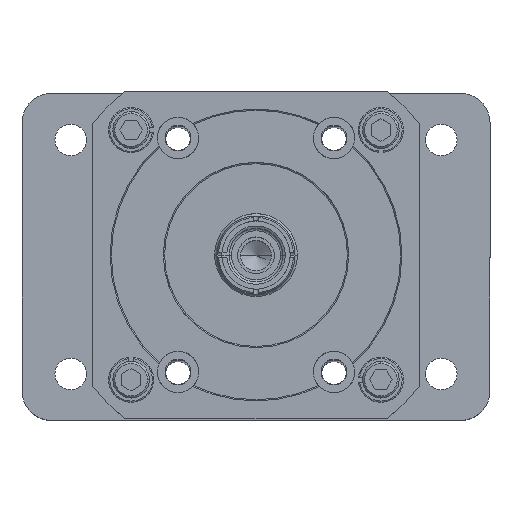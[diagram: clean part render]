
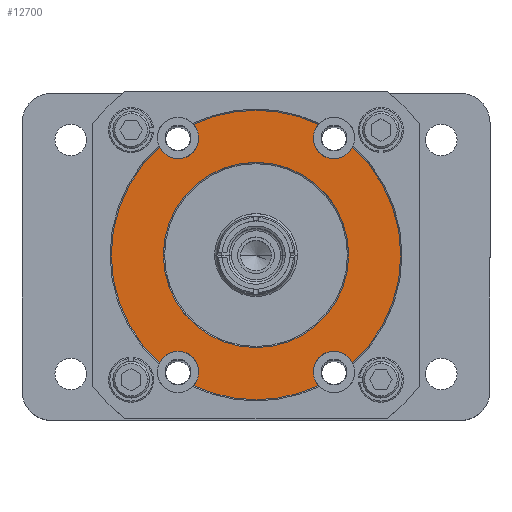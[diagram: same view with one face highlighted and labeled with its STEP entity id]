
A CAD part, top view. The second image highlights one B-rep face of the part: STEP entity #12700.
In plain terms, the highlighted planar face has unit normal (0, 0, 1).
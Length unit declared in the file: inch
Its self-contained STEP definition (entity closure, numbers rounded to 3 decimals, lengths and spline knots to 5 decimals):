
#1399 = VERTEX_POINT ( 'NONE', #5790 ) ;
#1645 = EDGE_CURVE ( 'NONE', #1399, #2335, #6444, .T. ) ;
#2335 = VERTEX_POINT ( 'NONE', #6564 ) ;
#3333 = EDGE_CURVE ( 'NONE', #3338, #3342, #6869, .T. ) ;
#3338 = VERTEX_POINT ( 'NONE', #6905 ) ;
#3342 = VERTEX_POINT ( 'NONE', #6903 ) ;
#5490 = EDGE_CURVE ( 'NONE', #5748, #6431, #7483, .T. ) ;
#5748 = VERTEX_POINT ( 'NONE', #7430 ) ;
#5790 = CARTESIAN_POINT ( 'NONE',  ( 1.85538, 0., -0.18 ) ) ;
#6396 = AXIS2_PLACEMENT_3D ( 'NONE', #6434, #6433, #6432 ) ;
#6431 = VERTEX_POINT ( 'NONE', #7495 ) ;
#6432 = DIRECTION ( 'NONE',  ( 1., 0., 0. ) ) ;
#6433 = DIRECTION ( 'NONE',  ( 0., 0., 1. ) ) ;
#6434 = CARTESIAN_POINT ( 'NONE',  ( 0., 0., -0.18 ) ) ;
#6444 = CIRCLE ( 'NONE', #6396, 1.85538 ) ;
#6564 = CARTESIAN_POINT ( 'NONE',  ( 1.23798, 1.38196, -0.18 ) ) ;
#6868 = CARTESIAN_POINT ( 'NONE',  ( 1., -1.5, -0.18 ) ) ;
#6869 = CIRCLE ( 'NONE', #6919, 0.26565 ) ;
#6903 = CARTESIAN_POINT ( 'NONE',  ( 0.79951, -1.67428, -0.18 ) ) ;
#6905 = CARTESIAN_POINT ( 'NONE',  ( 0.73435, -1.5, -0.18 ) ) ;
#6917 = DIRECTION ( 'NONE',  ( 1., 0., 0. ) ) ;
#6918 = DIRECTION ( 'NONE',  ( 0., 0., 1. ) ) ;
#6919 = AXIS2_PLACEMENT_3D ( 'NONE', #6868, #6918, #6917 ) ;
#7430 = CARTESIAN_POINT ( 'NONE',  ( -0.79951, -1.67428, -0.18 ) ) ;
#7465 = DIRECTION ( 'NONE',  ( 1., 0., 0. ) ) ;
#7466 = DIRECTION ( 'NONE',  ( 0., 0., 1. ) ) ;
#7467 = CARTESIAN_POINT ( 'NONE',  ( -1., -1.5, -0.18 ) ) ;
#7472 = AXIS2_PLACEMENT_3D ( 'NONE', #7467, #7466, #7465 ) ;
#7483 = CIRCLE ( 'NONE', #7472, 0.26565 ) ;
#7495 = CARTESIAN_POINT ( 'NONE',  ( -0.73435, -1.5, -0.18 ) ) ;
#12210 = EDGE_CURVE ( 'NONE', #12290, #2335, #18081, .T. ) ;
#12229 = VERTEX_POINT ( 'NONE', #18182 ) ;
#12238 = EDGE_CURVE ( 'NONE', #12249, #12229, #18183, .T. ) ;
#12249 = VERTEX_POINT ( 'NONE', #18226 ) ;
#12290 = VERTEX_POINT ( 'NONE', #18327 ) ;
#12317 = VERTEX_POINT ( 'NONE', #18445 ) ;
#12345 = EDGE_CURVE ( 'NONE', #12317, #12362, #18538, .T. ) ;
#12362 = VERTEX_POINT ( 'NONE', #18587 ) ;
#12364 = EDGE_CURVE ( 'NONE', #12362, #12317, #18611, .T. ) ;
#12624 = ORIENTED_EDGE ( 'NONE', *, *, #12628, .T. ) ;
#12625 = VERTEX_POINT ( 'NONE', #19042 ) ;
#12626 = ORIENTED_EDGE ( 'NONE', *, *, #1645, .T. ) ;
#12627 = ORIENTED_EDGE ( 'NONE', *, *, #12644, .F. ) ;
#12628 = EDGE_CURVE ( 'NONE', #12702, #1399, #19031, .T. ) ;
#12629 = VERTEX_POINT ( 'NONE', #19058 ) ;
#12630 = ORIENTED_EDGE ( 'NONE', *, *, #12238, .F. ) ;
#12631 = EDGE_CURVE ( 'NONE', #12249, #12698, #19104, .T. ) ;
#12634 = EDGE_LOOP ( 'NONE', ( #12654, #12640, #12703, #12627, #12624, #12626, #12691, #12639, #12701, #12696, #12630, #12678, #12697 ) ) ;
#12639 = ORIENTED_EDGE ( 'NONE', *, *, #12642, .F. ) ;
#12640 = ORIENTED_EDGE ( 'NONE', *, *, #12699, .T. ) ;
#12642 = EDGE_CURVE ( 'NONE', #12629, #12290, #19078, .T. ) ;
#12644 = EDGE_CURVE ( 'NONE', #12702, #3338, #18809, .T. ) ;
#12654 = ORIENTED_EDGE ( 'NONE', *, *, #5490, .F. ) ;
#12678 = ORIENTED_EDGE ( 'NONE', *, *, #12631, .T. ) ;
#12679 = EDGE_CURVE ( 'NONE', #6431, #12698, #19151, .T. ) ;
#12681 = EDGE_LOOP ( 'NONE', ( #12682, #12683 ) ) ;
#12682 = ORIENTED_EDGE ( 'NONE', *, *, #12345, .F. ) ;
#12683 = ORIENTED_EDGE ( 'NONE', *, *, #12364, .F. ) ;
#12691 = ORIENTED_EDGE ( 'NONE', *, *, #12210, .F. ) ;
#12692 = EDGE_CURVE ( 'NONE', #12629, #12625, #19203, .T. ) ;
#12695 = EDGE_CURVE ( 'NONE', #12229, #12625, #19150, .T. ) ;
#12696 = ORIENTED_EDGE ( 'NONE', *, *, #12695, .F. ) ;
#12697 = ORIENTED_EDGE ( 'NONE', *, *, #12679, .F. ) ;
#12698 = VERTEX_POINT ( 'NONE', #19140 ) ;
#12699 = EDGE_CURVE ( 'NONE', #5748, #3342, #19141, .T. ) ;
#12700 = ADVANCED_FACE ( 'NONE', ( #19185, #19142 ), #19146, .T. ) ;
#12701 = ORIENTED_EDGE ( 'NONE', *, *, #12692, .T. ) ;
#12702 = VERTEX_POINT ( 'NONE', #19189 ) ;
#12703 = ORIENTED_EDGE ( 'NONE', *, *, #3333, .F. ) ;
#17656 = AXIS2_PLACEMENT_3D ( 'NONE', #18204, #18220, #18803 ) ;
#18081 = CIRCLE ( 'NONE', #18162, 0.26565 ) ;
#18153 = DIRECTION ( 'NONE',  ( 1., 0., 0. ) ) ;
#18154 = DIRECTION ( 'NONE',  ( 0., 0., 1. ) ) ;
#18155 = CARTESIAN_POINT ( 'NONE',  ( 1., 1.5, -0.18 ) ) ;
#18162 = AXIS2_PLACEMENT_3D ( 'NONE', #18155, #18154, #18153 ) ;
#18182 = CARTESIAN_POINT ( 'NONE',  ( -0.73435, 1.5, -0.18 ) ) ;
#18183 = CIRCLE ( 'NONE', #18224, 0.26565 ) ;
#18204 = CARTESIAN_POINT ( 'NONE',  ( 1., -1.5, -0.18 ) ) ;
#18220 = DIRECTION ( 'NONE',  ( 0., 0., 1. ) ) ;
#18221 = DIRECTION ( 'NONE',  ( 1., 0., 0. ) ) ;
#18222 = DIRECTION ( 'NONE',  ( 0., 0., 1. ) ) ;
#18223 = CARTESIAN_POINT ( 'NONE',  ( -1., 1.5, -0.18 ) ) ;
#18224 = AXIS2_PLACEMENT_3D ( 'NONE', #18223, #18222, #18221 ) ;
#18226 = CARTESIAN_POINT ( 'NONE',  ( -1.23798, 1.38196, -0.18 ) ) ;
#18327 = CARTESIAN_POINT ( 'NONE',  ( 0.73435, 1.5, -0.18 ) ) ;
#18445 = CARTESIAN_POINT ( 'NONE',  ( 1.1875, 0., -0.18 ) ) ;
#18473 = CARTESIAN_POINT ( 'NONE',  ( 0., 0., -0.18 ) ) ;
#18533 = DIRECTION ( 'NONE',  ( 1., 0., 0. ) ) ;
#18534 = DIRECTION ( 'NONE',  ( 0., 0., 1. ) ) ;
#18535 = AXIS2_PLACEMENT_3D ( 'NONE', #18473, #18534, #18533 ) ;
#18538 = CIRCLE ( 'NONE', #18535, 1.1875 ) ;
#18587 = CARTESIAN_POINT ( 'NONE',  ( -1.1875, 0., -0.18 ) ) ;
#18603 = DIRECTION ( 'NONE',  ( 1., 0., 0. ) ) ;
#18604 = DIRECTION ( 'NONE',  ( 0., 0., 1. ) ) ;
#18605 = CARTESIAN_POINT ( 'NONE',  ( 0., 0., -0.18 ) ) ;
#18606 = AXIS2_PLACEMENT_3D ( 'NONE', #18605, #18604, #18603 ) ;
#18611 = CIRCLE ( 'NONE', #18606, 1.1875 ) ;
#18803 = DIRECTION ( 'NONE',  ( 1., 0., 0. ) ) ;
#18809 = CIRCLE ( 'NONE', #17656, 0.26565 ) ;
#19029 = CARTESIAN_POINT ( 'NONE',  ( 0., 0., -0.18 ) ) ;
#19031 = CIRCLE ( 'NONE', #19040, 1.85538 ) ;
#19040 = AXIS2_PLACEMENT_3D ( 'NONE', #19103, #19102, #19101 ) ;
#19042 = CARTESIAN_POINT ( 'NONE',  ( -0.79951, 1.67428, -0.18 ) ) ;
#19058 = CARTESIAN_POINT ( 'NONE',  ( 0.79951, 1.67428, -0.18 ) ) ;
#19066 = DIRECTION ( 'NONE',  ( 1., 0., 0. ) ) ;
#19067 = DIRECTION ( 'NONE',  ( 0., 0., 1. ) ) ;
#19074 = CARTESIAN_POINT ( 'NONE',  ( 1., 1.5, -0.18 ) ) ;
#19076 = AXIS2_PLACEMENT_3D ( 'NONE', #19074, #19067, #19066 ) ;
#19078 = CIRCLE ( 'NONE', #19076, 0.26565 ) ;
#19092 = DIRECTION ( 'NONE',  ( 1., 0., 0. ) ) ;
#19093 = DIRECTION ( 'NONE',  ( 0., 0., 1. ) ) ;
#19094 = AXIS2_PLACEMENT_3D ( 'NONE', #19029, #19093, #19092 ) ;
#19101 = DIRECTION ( 'NONE',  ( 1., 0., 0. ) ) ;
#19102 = DIRECTION ( 'NONE',  ( 0., 0., 1. ) ) ;
#19103 = CARTESIAN_POINT ( 'NONE',  ( 0., 0., -0.18 ) ) ;
#19104 = CIRCLE ( 'NONE', #19094, 1.85538 ) ;
#19117 = DIRECTION ( 'NONE',  ( 0., 0., 1. ) ) ;
#19139 = CARTESIAN_POINT ( 'NONE',  ( 0., 0., -0.18 ) ) ;
#19140 = CARTESIAN_POINT ( 'NONE',  ( -1.23798, -1.38196, -0.18 ) ) ;
#19141 = CIRCLE ( 'NONE', #19198, 1.85538 ) ;
#19142 = FACE_BOUND ( 'NONE', #12681, .T. ) ;
#19143 = DIRECTION ( 'NONE',  ( 1., 0., 0. ) ) ;
#19144 = AXIS2_PLACEMENT_3D ( 'NONE', #19152, #19117, #19143 ) ;
#19146 = PLANE ( 'NONE',  #19183 ) ;
#19150 = CIRCLE ( 'NONE', #19196, 0.26565 ) ;
#19151 = CIRCLE ( 'NONE', #19144, 0.26565 ) ;
#19152 = CARTESIAN_POINT ( 'NONE',  ( -1., -1.5, -0.18 ) ) ;
#19177 = DIRECTION ( 'NONE',  ( 1., 0., 0. ) ) ;
#19178 = DIRECTION ( 'NONE',  ( 0., 0., 1. ) ) ;
#19179 = CARTESIAN_POINT ( 'NONE',  ( 0., 0., -0.18 ) ) ;
#19183 = AXIS2_PLACEMENT_3D ( 'NONE', #19179, #19178, #19177 ) ;
#19185 = FACE_OUTER_BOUND ( 'NONE', #12634, .T. ) ;
#19186 = DIRECTION ( 'NONE',  ( 1., 0., 0. ) ) ;
#19187 = DIRECTION ( 'NONE',  ( 0., 0., 1. ) ) ;
#19188 = CARTESIAN_POINT ( 'NONE',  ( 0., 0., -0.18 ) ) ;
#19189 = CARTESIAN_POINT ( 'NONE',  ( 1.23798, -1.38196, -0.18 ) ) ;
#19193 = DIRECTION ( 'NONE',  ( 1., 0., 0. ) ) ;
#19194 = DIRECTION ( 'NONE',  ( 0., 0., 1. ) ) ;
#19195 = CARTESIAN_POINT ( 'NONE',  ( -1., 1.5, -0.18 ) ) ;
#19196 = AXIS2_PLACEMENT_3D ( 'NONE', #19195, #19194, #19193 ) ;
#19198 = AXIS2_PLACEMENT_3D ( 'NONE', #19188, #19187, #19186 ) ;
#19200 = DIRECTION ( 'NONE',  ( 1., 0., 0. ) ) ;
#19201 = DIRECTION ( 'NONE',  ( 0., 0., 1. ) ) ;
#19202 = AXIS2_PLACEMENT_3D ( 'NONE', #19139, #19201, #19200 ) ;
#19203 = CIRCLE ( 'NONE', #19202, 1.85538 ) ;
